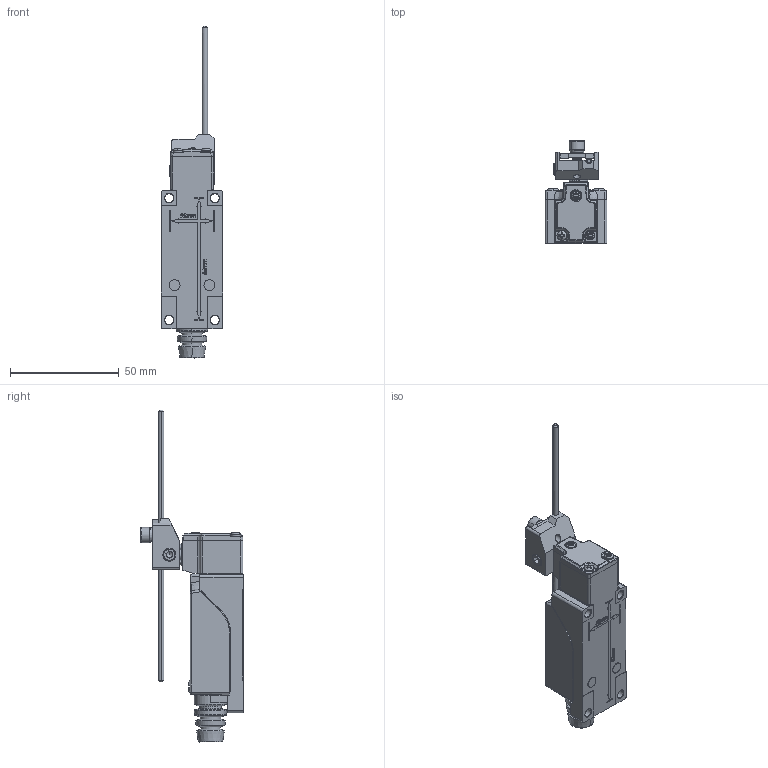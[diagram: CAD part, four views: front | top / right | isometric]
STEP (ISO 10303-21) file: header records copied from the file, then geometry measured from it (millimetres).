
FILE_DESCRIPTION((''),'2;1');
FILE_NAME('ALS1-M11_H3_ASM','2019-02-20T15:26:34',('1'),(''),'CREO PARAMETRIC BY PTC INC, 2016510','CREO PARAMETRIC BY PTC INC, 2016510','');
FILE_SCHEMA(('CONFIG_CONTROL_DESIGN'));
Products named in the file (1): ALS1-M11_H3_ASM
Bounding box: 28.5 x 47.21 x 152.64 mm (x, y, z)
Volume: 18233.2 mm3; surface area: 31502.4 mm2
Topology: 4 solids, 23 shells, 2204 faces, 6024 edges, 3844 vertices
Faces by surface type: plane 854, cylinder 725, torus 214, cone 192, bspline 118, extrusion 61, sphere 40
Entity records: 96041 total; most frequent: CARTESIAN_POINT 41551, ORIENTED_EDGE 11660, DIRECTION 10945, EDGE_CURVE 5979, AXIS2_PLACEMENT_3D 3994, VERTEX_POINT 3843, VECTOR 2957, LINE 2896
